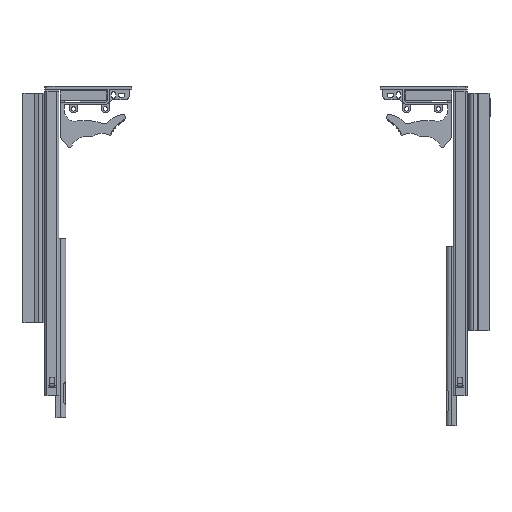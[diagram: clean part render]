
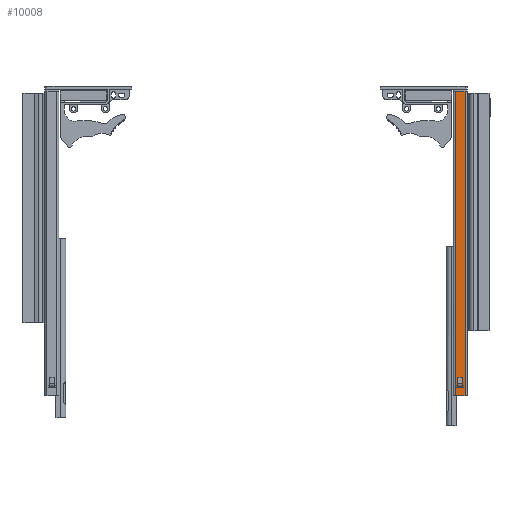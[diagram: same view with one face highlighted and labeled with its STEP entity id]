
A CAD part, front view. The second image highlights one B-rep face of the part: STEP entity #10008.
In plain terms, the highlighted planar face has unit normal (0, -1, 0).
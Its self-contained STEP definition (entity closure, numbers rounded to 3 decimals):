
#215=FACE_BOUND('',#1359,.T.);
#701=FACE_OUTER_BOUND('',#1358,.T.);
#1358=EDGE_LOOP('',(#7687,#7688,#7689,#7690));
#1359=EDGE_LOOP('',(#7691,#7692,#7693,#7694));
#2093=LINE('',#15508,#3073);
#2097=LINE('',#15515,#3077);
#2100=LINE('',#15547,#3080);
#2102=LINE('',#15553,#3082);
#2133=LINE('',#15640,#3113);
#2134=LINE('',#15643,#3114);
#2135=LINE('',#15645,#3115);
#2136=LINE('',#15646,#3116);
#3073=VECTOR('',#12531,10.);
#3077=VECTOR('',#12537,10.);
#3080=VECTOR('',#12542,10.);
#3082=VECTOR('',#12552,10.);
#3113=VECTOR('',#12635,10.);
#3114=VECTOR('',#12638,10.);
#3115=VECTOR('',#12639,10.);
#3116=VECTOR('',#12640,10.);
#4476=VERTEX_POINT('',#15505);
#4477=VERTEX_POINT('',#15507);
#4479=VERTEX_POINT('',#15513);
#4480=VERTEX_POINT('',#15545);
#4509=VERTEX_POINT('',#15636);
#4510=VERTEX_POINT('',#15638);
#4511=VERTEX_POINT('',#15642);
#4512=VERTEX_POINT('',#15644);
#5602=EDGE_CURVE('',#4477,#4476,#2093,.T.);
#5606=EDGE_CURVE('',#4476,#4479,#2097,.T.);
#5610=EDGE_CURVE('',#4479,#4480,#2100,.T.);
#5612=EDGE_CURVE('',#4480,#4477,#2102,.T.);
#5655=EDGE_CURVE('',#4509,#4510,#2133,.T.);
#5656=EDGE_CURVE('',#4509,#4511,#2134,.T.);
#5657=EDGE_CURVE('',#4512,#4510,#2135,.T.);
#5658=EDGE_CURVE('',#4511,#4512,#2136,.T.);
#7687=ORIENTED_EDGE('',*,*,#5656,.F.);
#7688=ORIENTED_EDGE('',*,*,#5655,.T.);
#7689=ORIENTED_EDGE('',*,*,#5657,.F.);
#7690=ORIENTED_EDGE('',*,*,#5658,.F.);
#7691=ORIENTED_EDGE('',*,*,#5602,.T.);
#7692=ORIENTED_EDGE('',*,*,#5606,.T.);
#7693=ORIENTED_EDGE('',*,*,#5610,.T.);
#7694=ORIENTED_EDGE('',*,*,#5612,.T.);
#9326=PLANE('',#10789);
#10008=ADVANCED_FACE('',(#701,#215),#9326,.T.);
#10789=AXIS2_PLACEMENT_3D('',#15641,#12636,#12637);
#12531=DIRECTION('',(0.,0.,-1.));
#12537=DIRECTION('',(-1.,0.,0.));
#12542=DIRECTION('',(0.,0.,1.));
#12552=DIRECTION('',(1.,0.,0.));
#12635=DIRECTION('',(0.,0.,-1.));
#12636=DIRECTION('center_axis',(0.,-1.,0.));
#12637=DIRECTION('ref_axis',(-1.,0.,0.));
#12638=DIRECTION('',(1.,0.,0.));
#12639=DIRECTION('',(-1.,0.,0.));
#12640=DIRECTION('',(0.,0.,-1.));
#15505=CARTESIAN_POINT('',(30.652,8.,-188.597));
#15507=CARTESIAN_POINT('',(30.652,8.,-187.097));
#15508=CARTESIAN_POINT('',(30.652,8.,-39.597));
#15513=CARTESIAN_POINT('',(24.034,8.,-188.597));
#15515=CARTESIAN_POINT('',(29.843,8.,-188.597));
#15545=CARTESIAN_POINT('',(24.034,8.,-187.097));
#15547=CARTESIAN_POINT('',(24.034,8.,-39.597));
#15553=CARTESIAN_POINT('',(29.843,8.,-187.097));
#15636=CARTESIAN_POINT('',(22.343,8.,107.903));
#15638=CARTESIAN_POINT('',(22.343,8.,-197.097));
#15640=CARTESIAN_POINT('',(22.343,8.,107.903));
#15641=CARTESIAN_POINT('Origin',(32.343,8.,107.903));
#15642=CARTESIAN_POINT('',(32.343,8.,107.903));
#15643=CARTESIAN_POINT('',(22.343,8.,107.903));
#15644=CARTESIAN_POINT('',(32.343,8.,-197.097));
#15645=CARTESIAN_POINT('',(22.343,8.,-197.097));
#15646=CARTESIAN_POINT('',(32.343,8.,107.903));
